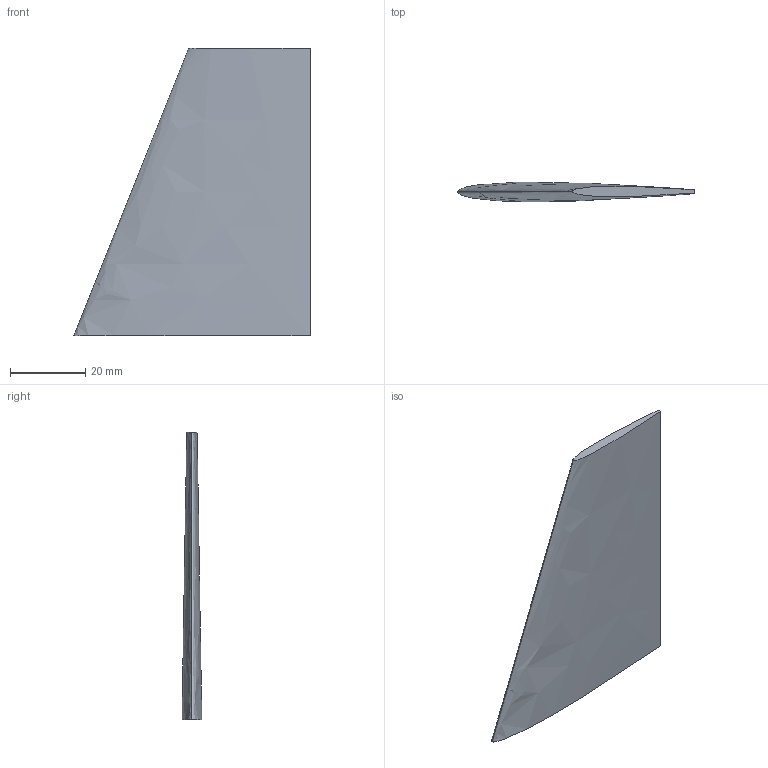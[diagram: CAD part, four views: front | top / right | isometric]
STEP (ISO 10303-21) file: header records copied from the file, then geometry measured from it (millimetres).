
FILE_DESCRIPTION(('Open CASCADE Model'),'2;1');
FILE_NAME('Open CASCADE Shape Model','2026-10-07T11:47:17',('Author'),( 'Open CASCADE'),'Open CASCADE STEP processor 7.9','Open CASCADE 7.9' ,'Unknown');
FILE_SCHEMA(('AUTOMOTIVE_DESIGN { 1 0 10303 214 1 1 1 1 }'));
Length unit declared in the file: millimetre
Products named in the file (1): Open CASCADE STEP translator 7.9 22
Bounding box: 62.6 x 5.21 x 76.1 mm (x, y, z)
Volume: 10981.1 mm3; surface area: 7674.4 mm2
Topology: 1 solids, 1 shells, 5 faces, 9 edges, 6 vertices
Faces by surface type: plane 3, bspline 2
Entity records: 707 total; most frequent: CARTESIAN_POINT 532, DIRECTION 20, ORIENTED_EDGE 18, PCURVE 18, DEFINITIONAL_REPRESENTATION 18, B_SPLINE_CURVE_WITH_KNOTS 15, LINE 12, VECTOR 12
